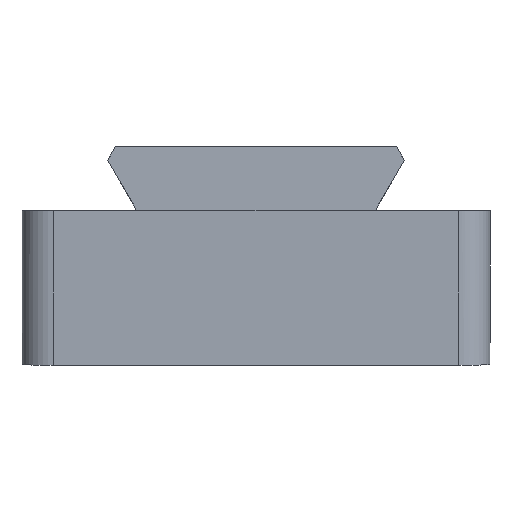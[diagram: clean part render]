
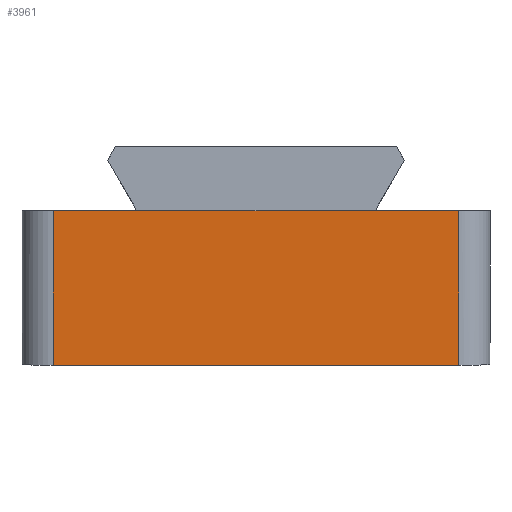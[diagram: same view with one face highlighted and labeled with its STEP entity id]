
A CAD part, left-side view. The second image highlights one B-rep face of the part: STEP entity #3961.
In plain terms, the highlighted planar face has unit normal (-0.999, 0, -0.035).
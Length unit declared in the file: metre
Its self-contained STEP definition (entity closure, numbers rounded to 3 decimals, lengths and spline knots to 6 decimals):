
#590=ORIENTED_EDGE('',*,*,#1590,.T.);
#591=ORIENTED_EDGE('',*,*,#1751,.T.);
#592=ORIENTED_EDGE('',*,*,#1520,.F.);
#593=ORIENTED_EDGE('',*,*,#1752,.T.);
#594=ORIENTED_EDGE('',*,*,#1602,.T.);
#595=ORIENTED_EDGE('',*,*,#1746,.T.);
#1520=EDGE_CURVE('',#2119,#2120,#2518,.T.);
#1590=EDGE_CURVE('',#2180,#2187,#2563,.T.);
#1602=EDGE_CURVE('',#2196,#2172,#2569,.T.);
#1746=EDGE_CURVE('',#2172,#2180,#2641,.T.);
#1751=EDGE_CURVE('',#2187,#2120,#2642,.T.);
#1752=EDGE_CURVE('',#2119,#2196,#2643,.F.);
#2119=VERTEX_POINT('',#5470);
#2120=VERTEX_POINT('',#5472);
#2172=VERTEX_POINT('',#5583);
#2180=VERTEX_POINT('',#5601);
#2187=VERTEX_POINT('',#5618);
#2196=VERTEX_POINT('',#5640);
#2518=LINE('',#5471,#2913);
#2563=LINE('',#5619,#2958);
#2569=LINE('',#5639,#2964);
#2641=LINE('',#6002,#3036);
#2642=LINE('',#6014,#3037);
#2643=LINE('',#6015,#3038);
#2913=VECTOR('',#4484,1.);
#2958=VECTOR('',#4599,1.);
#2964=VECTOR('',#4617,1.);
#3036=VECTOR('',#4769,1.);
#3037=VECTOR('',#4788,1.);
#3038=VECTOR('',#4789,1.);
#3347=EDGE_LOOP('',(#590,#591,#592,#593,#594,#595));
#3602=FACE_BOUND('',#3347,.T.);
#3832=PLANE('',#4267);
#3961=ADVANCED_FACE('',(#3602),#3832,.F.);
#4267=AXIS2_PLACEMENT_3D('',#6013,#4786,#4787);
#4484=DIRECTION('',(0.,1.,0.));
#4599=DIRECTION('',(0.,1.,0.));
#4617=DIRECTION('',(0.,1.,0.));
#4769=DIRECTION('',(0.,1.,0.));
#4786=DIRECTION('',(0.999,0.,0.035));
#4787=DIRECTION('',(0.035,0.,-0.999));
#4788=DIRECTION('',(0.035,0.,-0.999));
#4789=DIRECTION('',(0.035,0.,-0.999));
#5470=CARTESIAN_POINT('',(0.000346,-0.013,-0.009915));
#5471=CARTESIAN_POINT('',(0.000346,-0.015,-0.009915));
#5472=CARTESIAN_POINT('',(0.000346,0.013,-0.009915));
#5583=CARTESIAN_POINT('',(0.,-0.007695,0.));
#5601=CARTESIAN_POINT('',(0.,0.007695,0.));
#5618=CARTESIAN_POINT('',(0.,0.013,0.));
#5619=CARTESIAN_POINT('',(0.,-0.015,0.));
#5639=CARTESIAN_POINT('',(0.,-0.015,0.));
#5640=CARTESIAN_POINT('',(0.,-0.013,0.));
#6002=CARTESIAN_POINT('',(0.,0.,0.));
#6013=CARTESIAN_POINT('',(0.000173,-0.015,-0.004957));
#6014=CARTESIAN_POINT('',(0.000173,0.013,-0.004957));
#6015=CARTESIAN_POINT('',(0.,-0.013,0.));
